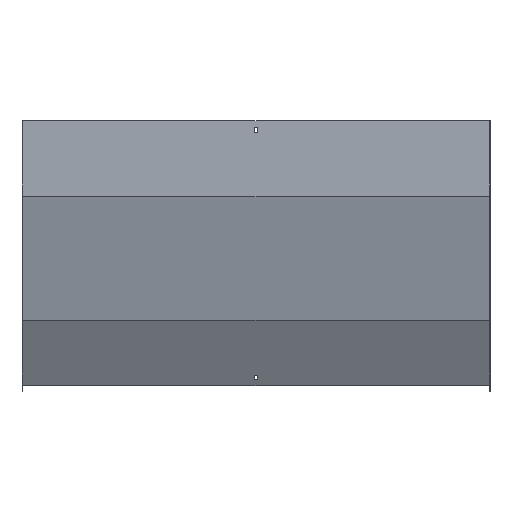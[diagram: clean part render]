
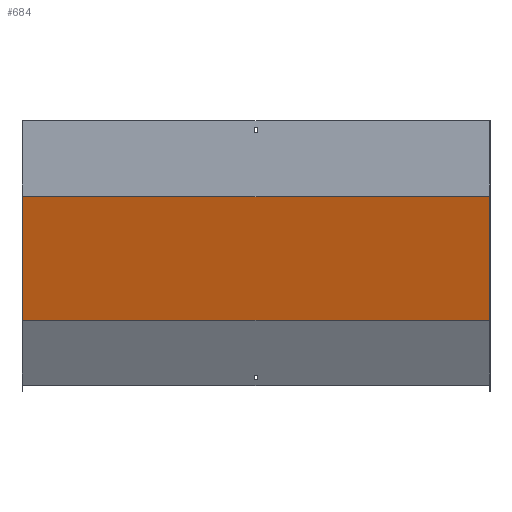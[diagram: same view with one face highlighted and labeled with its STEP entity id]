
A CAD part, front view. The second image highlights one B-rep face of the part: STEP entity #684.
In plain terms, the highlighted planar face has unit normal (0, -0.966, -0.259).
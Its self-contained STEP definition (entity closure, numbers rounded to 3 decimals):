
#38 = LINE ( 'NONE', #709, #835 ) ;
#69 = EDGE_CURVE ( 'NONE', #257, #282, #141, .T. ) ;
#118 = AXIS2_PLACEMENT_3D ( 'NONE', #146, #273, #538 ) ;
#132 = DIRECTION ( 'NONE',  ( -1., 0., 0. ) ) ;
#141 = LINE ( 'NONE', #213, #485 ) ;
#146 = CARTESIAN_POINT ( 'NONE',  ( 401.5, -1.449, -130.388 ) ) ;
#157 = VECTOR ( 'NONE', #722, 1000. ) ;
#195 = LINE ( 'NONE', #606, #613 ) ;
#213 = CARTESIAN_POINT ( 'NONE',  ( 401.5, -1.5, -130.197 ) ) ;
#243 = EDGE_LOOP ( 'NONE', ( #366, #562, #615, #822 ) ) ;
#257 = VERTEX_POINT ( 'NONE', #718 ) ;
#273 = DIRECTION ( 'NONE',  ( 0., 0.966, 0.259 ) ) ;
#282 = VERTEX_POINT ( 'NONE', #458 ) ;
#316 = VERTEX_POINT ( 'NONE', #569 ) ;
#319 = VERTEX_POINT ( 'NONE', #813 ) ;
#323 = DIRECTION ( 'NONE',  ( 0., 0.259, -0.966 ) ) ;
#325 = LINE ( 'NONE', #462, #157 ) ;
#366 = ORIENTED_EDGE ( 'NONE', *, *, #598, .T. ) ;
#444 = EDGE_CURVE ( 'NONE', #257, #319, #38, .T. ) ;
#458 = CARTESIAN_POINT ( 'NONE',  ( -400., -1.5, -130.197 ) ) ;
#462 = CARTESIAN_POINT ( 'NONE',  ( 401.5, 55.284, -342.117 ) ) ;
#475 = FACE_OUTER_BOUND ( 'NONE', #243, .T. ) ;
#485 = VECTOR ( 'NONE', #132, 1000. ) ;
#538 = DIRECTION ( 'NONE',  ( 0., -0.259, 0.966 ) ) ;
#562 = ORIENTED_EDGE ( 'NONE', *, *, #832, .F. ) ;
#569 = CARTESIAN_POINT ( 'NONE',  ( -400., 55.284, -342.117 ) ) ;
#598 = EDGE_CURVE ( 'NONE', #282, #316, #195, .T. ) ;
#602 = DIRECTION ( 'NONE',  ( 0., 0.259, -0.966 ) ) ;
#606 = CARTESIAN_POINT ( 'NONE',  ( -400., -33.949, -9.097 ) ) ;
#613 = VECTOR ( 'NONE', #602, 1000. ) ;
#615 = ORIENTED_EDGE ( 'NONE', *, *, #444, .F. ) ;
#684 = ADVANCED_FACE ( 'NONE', ( #475 ), #740, .F. ) ;
#709 = CARTESIAN_POINT ( 'NONE',  ( 400., -33.949, -9.097 ) ) ;
#718 = CARTESIAN_POINT ( 'NONE',  ( 400., -1.5, -130.197 ) ) ;
#722 = DIRECTION ( 'NONE',  ( -1., 0., 0. ) ) ;
#740 = PLANE ( 'NONE',  #118 ) ;
#813 = CARTESIAN_POINT ( 'NONE',  ( 400., 55.284, -342.117 ) ) ;
#822 = ORIENTED_EDGE ( 'NONE', *, *, #69, .T. ) ;
#832 = EDGE_CURVE ( 'NONE', #319, #316, #325, .T. ) ;
#835 = VECTOR ( 'NONE', #323, 1000. ) ;
